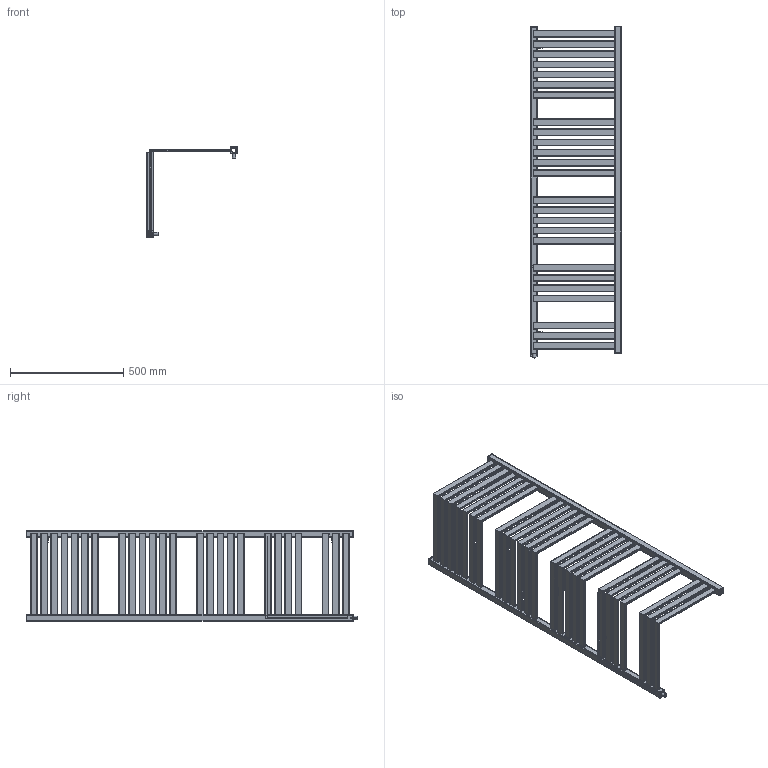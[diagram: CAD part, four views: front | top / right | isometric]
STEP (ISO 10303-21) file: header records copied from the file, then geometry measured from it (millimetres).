
FILE_DESCRIPTION( ( 'Unknown' ), '1' );
FILE_NAME( 'D:/Alplast sp. j/Witryna zespoBu - Projekty/Archiwum/Grzejniki Archiwum/Projekty/DESIGN PROGRAM/CORNER ALFA I BETA/CORNER ALFA 6.stp', 'Unknown', ( 'Unknown' ), ( 'Unknown' ), 'PSStep 10.1', 'Unknown', ' ' );
FILE_SCHEMA( ( 'AUTOMOTIVE_DESIGN { 1 0 10303 214 1 1 1 1 }' ) );
Length unit declared in the file: millimetre
Products named in the file (6): kana³ po giêciu; Assem1; kana³y 30x10 czêœæ do giêcia; AK6-N; zaslepka kwadrat otwor; mocowanie
Bounding box: 400 x 1468 x 400 mm (x, y, z)
Volume: 2496102.2 mm3; surface area: 3716654.8 mm2
Topology: 66 solids, 66 shells, 1960 faces, 5507 edges, 3636 vertices
Faces by surface type: plane 1089, cylinder 861, torus 10
Full cylindrical faces by diameter (mm): 14 x5, 16 x5, 18.631 x5, 23 x5
Entity records: 11412 total; most frequent: DIRECTION 1641, CARTESIAN_POINT 1607, ORIENTED_EDGE 1534, EDGE_CURVE 767, AXIS2_PLACEMENT_3D 570, VERTEX_POINT 514, LINE 501, VECTOR 501
